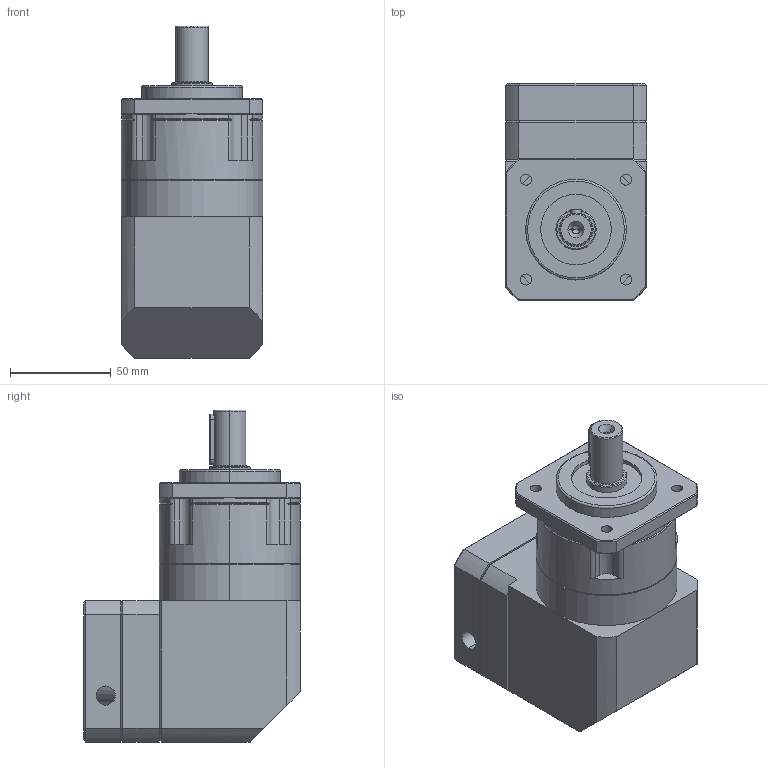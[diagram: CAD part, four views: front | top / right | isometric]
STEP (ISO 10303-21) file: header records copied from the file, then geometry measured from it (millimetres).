
FILE_DESCRIPTION (( 'STEP AP214' ), '1' );
FILE_NAME ('WPBF70-L1-14×30-50-70M5 三维零件图.STEP', '2021-08-10T09:28:50', ( 'XJJ' ), ( '' ), 'SwSTEP 2.0', 'SolidWorks 2016', '' );
FILE_SCHEMA (( 'AUTOMOTIVE_DESIGN' ));
Length unit declared in the file: millimetre
Products named in the file (3): WPBF70-L1-14×30-50-70M5 三维零件图; hexagon socket head cap screws gb_GB_FASTENER_SCREWS_HSHCS M5X16-N; WPBF70-L1-14×30-50-70M5 三维外形图
Assembly tree (2 placements, depth 2):
  WPBF70-L1-14×30-50-70M5 三维零件图
    WPBF70-L1-14×30-50-70M5 三维外形图
    hexagon socket head cap screws gb_GB_FASTENER_SCREWS_HSHCS M5X16-N
Bounding box: 70 x 107.5 x 164.5 mm (x, y, z)
Volume: 708384.6 mm3; surface area: 66689.7 mm2
Topology: 2 solids, 2 shells, 258 faces, 628 edges, 381 vertices
Faces by surface type: plane 101, cylinder 96, cone 48, torus 13
Entity records: 10278 total; most frequent: CARTESIAN_POINT 1873, DIRECTION 1324, ORIENTED_EDGE 1232, EDGE_CURVE 616, AXIS2_PLACEMENT_3D 522, VERTEX_POINT 381, EDGE_LOOP 293, LINE 280
